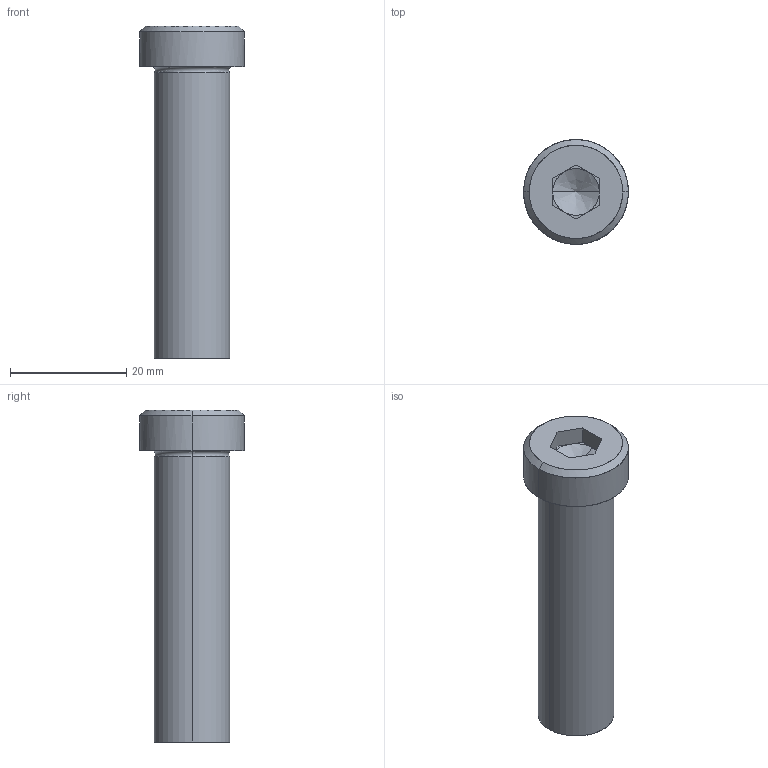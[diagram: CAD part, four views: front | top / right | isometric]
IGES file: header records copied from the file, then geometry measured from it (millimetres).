
Global section: file name: E:\UnigraphicsGraphicData\MISUMI_PRESS-PARTS\IGES\3d_sbtcn13-50_05150_r00.igs; native system: NX V5.0; preprocessor: UGS NX IGES V5.0; author: MISUMI; date: 20110105.162455; units: millimetre
Bounding box: 18 x 18 x 57 mm (x, y, z)
Surface area: 3429.4 mm2 (no closed solid volume)
Topology: 0 solids, 0 shells, 34 faces, 186 edges, 182 vertices
Faces by surface type: bspline 34
